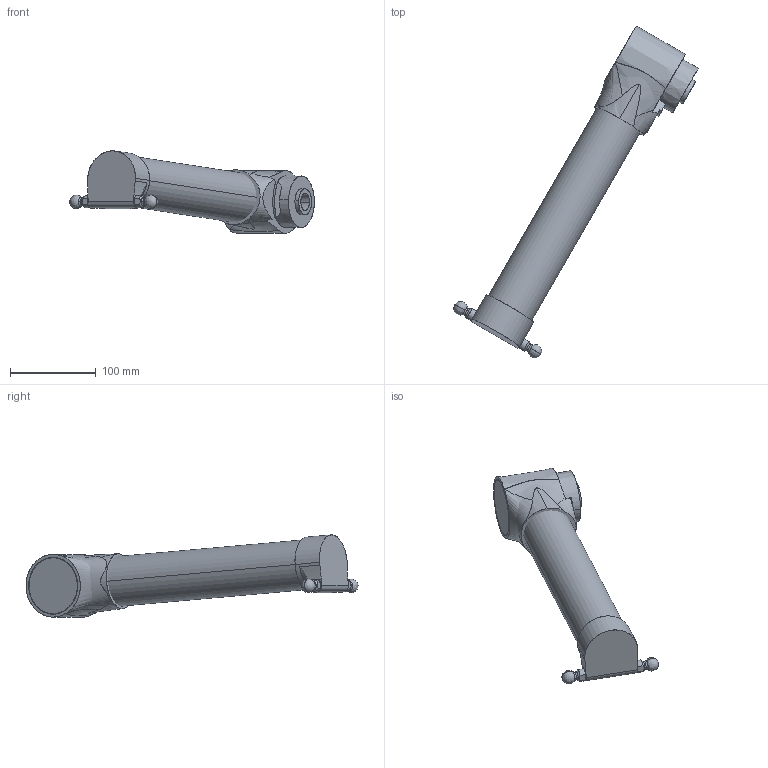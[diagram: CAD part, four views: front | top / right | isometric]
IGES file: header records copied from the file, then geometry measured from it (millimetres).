
Start section: SolidWorks IGES file using analytic representation for surfaces
Global section: file name: C:\Users\SELUHAA\Desktop\Work items\545792\IGES\IRB360_X-1130-STD-4D_rev03_IGES_J\IRB360_X-1130-STD-4D_rev03_UA2_CAD.IGS; native system: SolidWorks 2022; preprocessor: SolidWorks 2022; author: SELUHAA; date: 231204.090226; units: millimetre
Bounding box: 284.51 x 386.13 x 95.75 mm (x, y, z)
Surface area: 128597.9 mm2 (no closed solid volume)
Topology: 0 solids, 0 shells, 86 faces, 1907 edges, 1905 vertices
Faces by surface type: revolution 44, bspline 42
